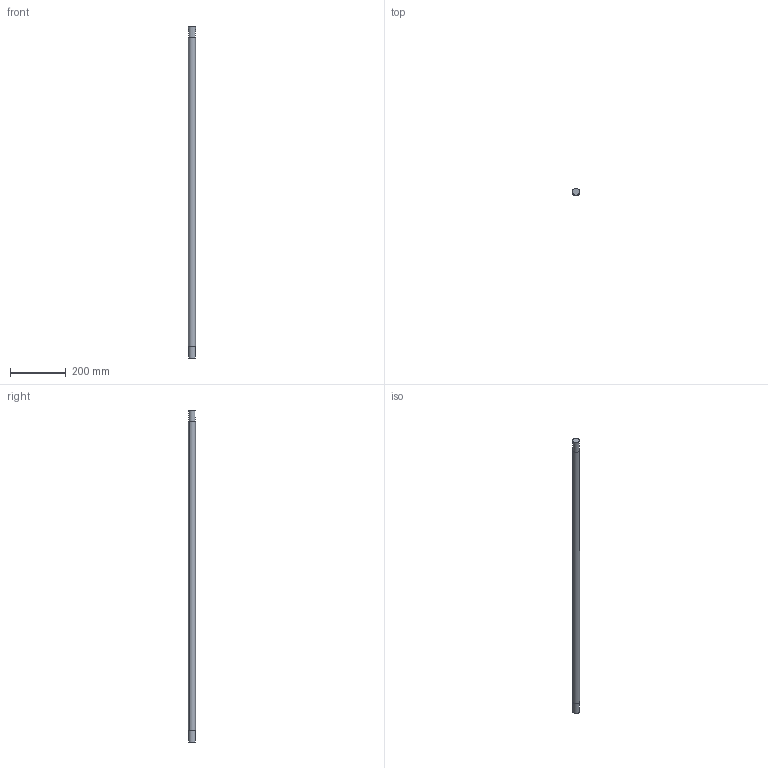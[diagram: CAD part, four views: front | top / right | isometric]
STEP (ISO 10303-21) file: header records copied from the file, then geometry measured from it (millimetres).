
FILE_DESCRIPTION(/* description */ (''),/* implementation_level */ '2;1');
FILE_NAME(/* name */ 'S:\UFFICIO TECNICO 2019\PRODOTTI ROTALIANA\SOUVLAKI\CONFIGURATORE\FILES X CONFIGURATORE\ipt INVENTOR\ASVTL002_tubo luminoso 1190mm.stp',/* time_stamp */ '2024-03-13T10:43:58+01:00',/* author */ ('mtesta'),/* organization */ (''),/* preprocessor_version */ 'ST-DEVELOPER v18.1',/* originating_system */ 'Autodesk Inventor 2021',/* authorisation */ '');
FILE_SCHEMA (('AUTOMOTIVE_DESIGN { 1 0 10303 214 3 1 1 }'));
Length unit declared in the file: millimetre
Products named in the file (1): A05649
Bounding box: 25.39 x 25.36 x 1190 mm (x, y, z)
Volume: 599525.7 mm3; surface area: 141989.3 mm2
Topology: 4 solids, 4 shells, 14 faces, 21 edges, 15 vertices
Faces by surface type: plane 10, cylinder 3, cone 1
Full cylindrical faces by diameter (mm): 25 x1
Entity records: 380 total; most frequent: DIRECTION 62, CARTESIAN_POINT 51, ORIENTED_EDGE 42, AXIS2_PLACEMENT_3D 26, EDGE_CURVE 21, VERTEX_POINT 15, FACE_OUTER_BOUND 14, EDGE_LOOP 14
